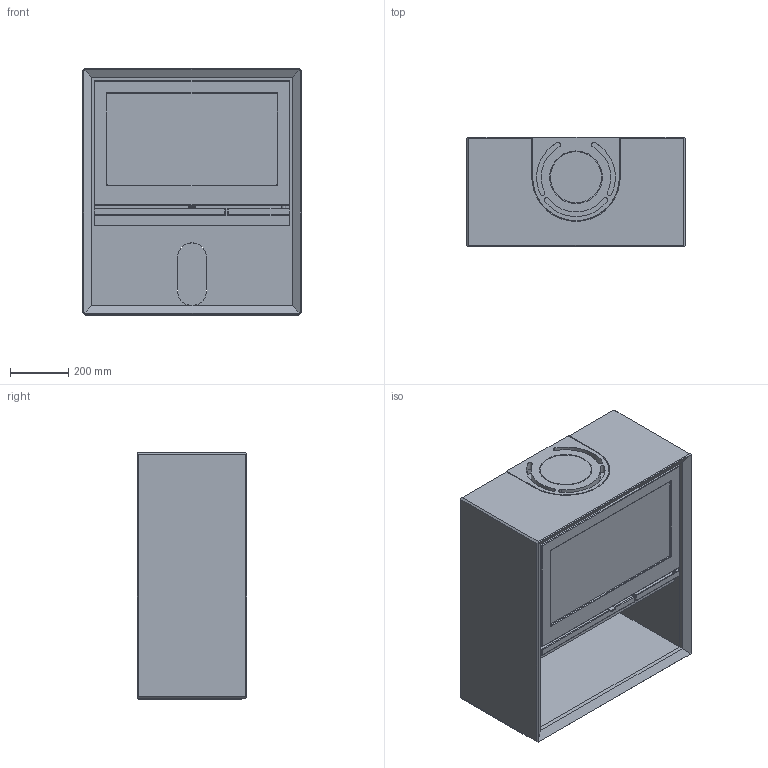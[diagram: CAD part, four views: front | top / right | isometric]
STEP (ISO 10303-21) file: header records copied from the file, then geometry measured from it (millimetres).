
FILE_DESCRIPTION(/* description */ ('Unknown','CAx-IF Rec.Pracs.---Representation and Presentation of Product Manufacturing Information (PMI)---4.0---2014-10-13','CAx-IF Rec.Pracs.---3D Tessellated Geometry---0.4---2014-09-14','2;1'),/* implementation_level */ '2;1');
FILE_NAME(/* name */ 'C320 Assembly',/* time_stamp */ '2017-01-02T13:19:07+01:00',/* author */ ('Unknown'),/* organization */ ('Unknown'),/* preprocessor_version */ 'ST-DEVELOPER v16.7',/* originating_system */ 'DEX',/* authorisation */ $);
FILE_SCHEMA (('AP242_MANAGED_MODEL_BASED_3D_ENGINEERING_MIM_LF { 1 0 10303 442 20130219 1 4 }'));
Length unit declared in the file: millimetre
Products named in the file (11): DSN1015755; DSN1015708; DSN1015718; DSN1015711; DSN1015721; DSN1015723; DSN1015741; DSN1015743; DSN1015771; DSN1015765; DSN1015770
Assembly tree (10 placements, depth 3):
  DSN1015755
    DSN1015708
    DSN1015718
    DSN1015711
    DSN1015721
    DSN1015723
    DSN1015741
    DSN1015743
    DSN1015771
      DSN1015765
      DSN1015770
Bounding box: 750 x 375 x 849 mm (x, y, z)
Volume: 107048476.3 mm3; surface area: 8617197 mm2
Topology: 12 solids, 12 shells, 832 faces, 2077 edges, 1336 vertices
Faces by surface type: plane 538, bspline 145, cylinder 118, sphere 17, torus 14
Full cylindrical faces by diameter (mm): 14 x1, 169 x1, 171.6 x1, 172 x1, 176 x1, 181 x1
Entity records: 31530 total; most frequent: CARTESIAN_POINT 11742, ORIENTED_EDGE 4064, DIRECTION 3556, EDGE_CURVE 2032, LINE 1486, VECTOR 1486, VERTEX_POINT 1333, AXIS2_PLACEMENT_3D 1035
